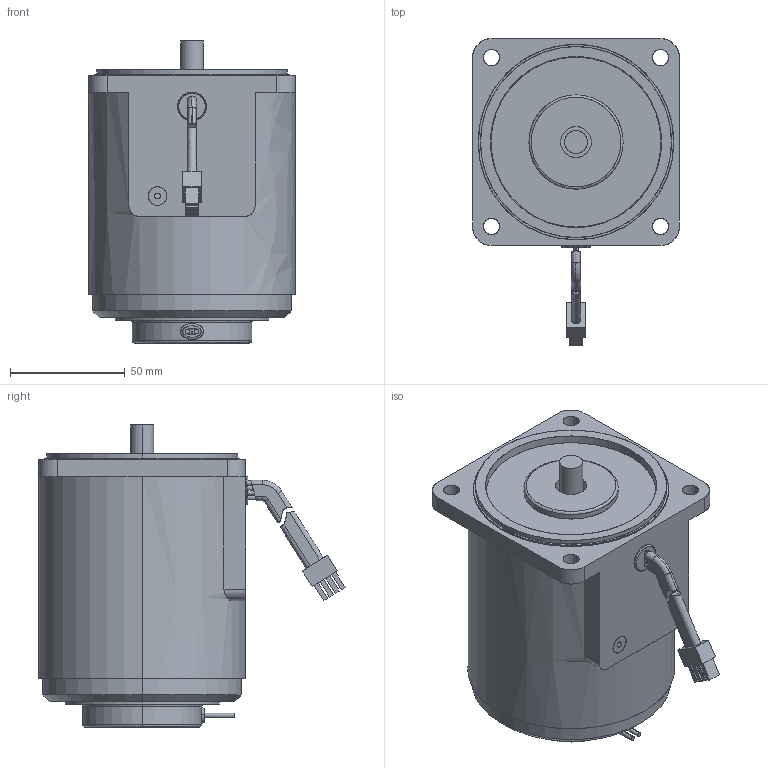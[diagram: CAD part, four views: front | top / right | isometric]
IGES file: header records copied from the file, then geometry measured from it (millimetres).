
Start section: SolidWorks IGES file using analytic representation for surfaces
Global section: file name: \\楷备家烹钦辑滚\data (D)\档搁 枚\权其捞瘤 档搁\7. SPEED INDUCTION\90\40W\(7-43) 9SDG∴-40W.IGS; native system: SolidWorks 2007; preprocessor: SolidWorks 2007; author: user; date: 150703.131348; units: millimetre
Bounding box: 90 x 133.4 x 131.5 mm (x, y, z)
Surface area: 106920.6 mm2 (no closed solid volume)
Topology: 0 solids, 0 shells, 229 faces, 4541 edges, 4541 vertices
Faces by surface type: bspline 143, revolution 86
